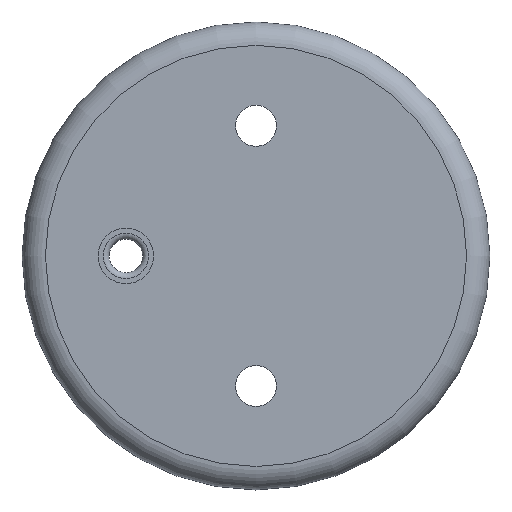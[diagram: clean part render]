
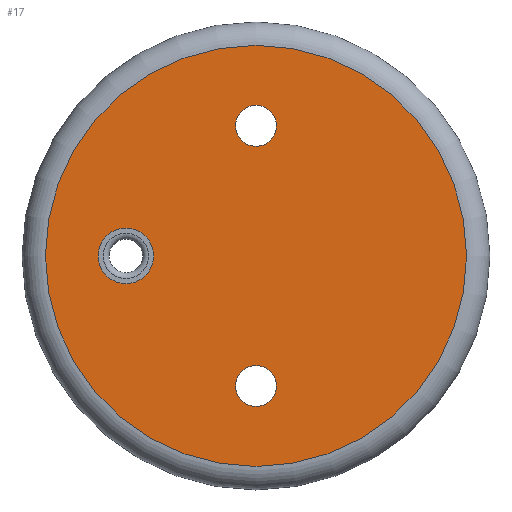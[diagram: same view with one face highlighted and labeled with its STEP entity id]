
A CAD part, top view. The second image highlights one B-rep face of the part: STEP entity #17.
In plain terms, the highlighted planar face has unit normal (0, 0, 1).
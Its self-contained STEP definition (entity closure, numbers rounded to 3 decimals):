
#17 = ADVANCED_FACE('',(#18,#54,#89,#124),#31,.T.);
#18 = FACE_BOUND('',#19,.F.);
#19 = EDGE_LOOP('',(#20));
#20 = ORIENTED_EDGE('',*,*,#21,.F.);
#21 = EDGE_CURVE('',#22,#22,#24,.T.);
#22 = VERTEX_POINT('',#23);
#23 = CARTESIAN_POINT('',(72.,0.,0.));
#24 = SURFACE_CURVE('',#25,(#30,#42),.PCURVE_S1.);
#25 = CIRCLE('',#26,72.);
#26 = AXIS2_PLACEMENT_3D('',#27,#28,#29);
#27 = CARTESIAN_POINT('',(0.,0.,0.));
#28 = DIRECTION('',(0.,0.,1.));
#29 = DIRECTION('',(1.,0.,-0.));
#30 = PCURVE('',#31,#36);
#31 = PLANE('',#32);
#32 = AXIS2_PLACEMENT_3D('',#33,#34,#35);
#33 = CARTESIAN_POINT('',(0.,0.,0.));
#34 = DIRECTION('',(0.,0.,1.));
#35 = DIRECTION('',(1.,0.,-0.));
#36 = DEFINITIONAL_REPRESENTATION('',(#37),#41);
#37 = CIRCLE('',#38,72.);
#38 = AXIS2_PLACEMENT_2D('',#39,#40);
#39 = CARTESIAN_POINT('',(0.,0.));
#40 = DIRECTION('',(1.,0.));
#41 = ( GEOMETRIC_REPRESENTATION_CONTEXT(2) 
PARAMETRIC_REPRESENTATION_CONTEXT() REPRESENTATION_CONTEXT('2D SPACE',''
  ) );
#42 = PCURVE('',#43,#48);
#43 = TOROIDAL_SURFACE('',#44,72.,8.);
#44 = AXIS2_PLACEMENT_3D('',#45,#46,#47);
#45 = CARTESIAN_POINT('',(0.,0.,-8.));
#46 = DIRECTION('',(-0.,-0.,-1.));
#47 = DIRECTION('',(1.,0.,-0.));
#48 = DEFINITIONAL_REPRESENTATION('',(#49),#53);
#49 = LINE('',#50,#51);
#50 = CARTESIAN_POINT('',(6.283,4.712));
#51 = VECTOR('',#52,1.);
#52 = DIRECTION('',(-1.,0.));
#53 = ( GEOMETRIC_REPRESENTATION_CONTEXT(2) 
PARAMETRIC_REPRESENTATION_CONTEXT() REPRESENTATION_CONTEXT('2D SPACE',''
  ) );
#54 = FACE_BOUND('',#55,.F.);
#55 = EDGE_LOOP('',(#56));
#56 = ORIENTED_EDGE('',*,*,#57,.F.);
#57 = EDGE_CURVE('',#58,#58,#60,.T.);
#58 = VERTEX_POINT('',#59);
#59 = CARTESIAN_POINT('',(7.,-44.5,0.));
#60 = SURFACE_CURVE('',#61,(#66,#77),.PCURVE_S1.);
#61 = CIRCLE('',#62,7.);
#62 = AXIS2_PLACEMENT_3D('',#63,#64,#65);
#63 = CARTESIAN_POINT('',(0.,-44.5,0.));
#64 = DIRECTION('',(0.,0.,-1.));
#65 = DIRECTION('',(1.,0.,0.));
#66 = PCURVE('',#31,#67);
#67 = DEFINITIONAL_REPRESENTATION('',(#68),#76);
#68 = ( BOUNDED_CURVE() B_SPLINE_CURVE(2,(#69,#70,#71,#72,#73,#74,#75),
.UNSPECIFIED.,.T.,.F.) B_SPLINE_CURVE_WITH_KNOTS((1,2,2,2,2,1),(
    -2.094,0.,2.094,4.189,6.283,
8.378),.UNSPECIFIED.) CURVE() GEOMETRIC_REPRESENTATION_ITEM() 
RATIONAL_B_SPLINE_CURVE((1.,0.5,1.,0.5,1.,0.5,1.)) REPRESENTATION_ITEM(
  '') );
#69 = CARTESIAN_POINT('',(7.,-44.5));
#70 = CARTESIAN_POINT('',(7.,-56.624));
#71 = CARTESIAN_POINT('',(-3.5,-50.562));
#72 = CARTESIAN_POINT('',(-14.,-44.5));
#73 = CARTESIAN_POINT('',(-3.5,-38.438));
#74 = CARTESIAN_POINT('',(7.,-32.376));
#75 = CARTESIAN_POINT('',(7.,-44.5));
#76 = ( GEOMETRIC_REPRESENTATION_CONTEXT(2) 
PARAMETRIC_REPRESENTATION_CONTEXT() REPRESENTATION_CONTEXT('2D SPACE',''
  ) );
#77 = PCURVE('',#78,#83);
#78 = CYLINDRICAL_SURFACE('',#79,7.);
#79 = AXIS2_PLACEMENT_3D('',#80,#81,#82);
#80 = CARTESIAN_POINT('',(0.,-44.5,-5.));
#81 = DIRECTION('',(-0.,-0.,-1.));
#82 = DIRECTION('',(1.,0.,0.));
#83 = DEFINITIONAL_REPRESENTATION('',(#84),#88);
#84 = LINE('',#85,#86);
#85 = CARTESIAN_POINT('',(0.,-5.));
#86 = VECTOR('',#87,1.);
#87 = DIRECTION('',(1.,-0.));
#88 = ( GEOMETRIC_REPRESENTATION_CONTEXT(2) 
PARAMETRIC_REPRESENTATION_CONTEXT() REPRESENTATION_CONTEXT('2D SPACE',''
  ) );
#89 = FACE_BOUND('',#90,.F.);
#90 = EDGE_LOOP('',(#91));
#91 = ORIENTED_EDGE('',*,*,#92,.F.);
#92 = EDGE_CURVE('',#93,#93,#95,.T.);
#93 = VERTEX_POINT('',#94);
#94 = CARTESIAN_POINT('',(-35.,0.,0.));
#95 = SURFACE_CURVE('',#96,(#101,#112),.PCURVE_S1.);
#96 = CIRCLE('',#97,9.5);
#97 = AXIS2_PLACEMENT_3D('',#98,#99,#100);
#98 = CARTESIAN_POINT('',(-44.5,0.,0.));
#99 = DIRECTION('',(0.,0.,-1.));
#100 = DIRECTION('',(1.,0.,0.));
#101 = PCURVE('',#31,#102);
#102 = DEFINITIONAL_REPRESENTATION('',(#103),#111);
#103 = ( BOUNDED_CURVE() B_SPLINE_CURVE(2,(#104,#105,#106,#107,#108,#109
,#110),.UNSPECIFIED.,.T.,.F.) B_SPLINE_CURVE_WITH_KNOTS((1,2,2,2,2,1),(
    -2.094,0.,2.094,4.189,6.283,
8.378),.UNSPECIFIED.) CURVE() GEOMETRIC_REPRESENTATION_ITEM() 
RATIONAL_B_SPLINE_CURVE((1.,0.5,1.,0.5,1.,0.5,1.)) REPRESENTATION_ITEM(
  '') );
#104 = CARTESIAN_POINT('',(-35.,0.));
#105 = CARTESIAN_POINT('',(-35.,-16.454));
#106 = CARTESIAN_POINT('',(-49.25,-8.227));
#107 = CARTESIAN_POINT('',(-63.5,0.));
#108 = CARTESIAN_POINT('',(-49.25,8.227));
#109 = CARTESIAN_POINT('',(-35.,16.454));
#110 = CARTESIAN_POINT('',(-35.,0.));
#111 = ( GEOMETRIC_REPRESENTATION_CONTEXT(2) 
PARAMETRIC_REPRESENTATION_CONTEXT() REPRESENTATION_CONTEXT('2D SPACE',''
  ) );
#112 = PCURVE('',#113,#118);
#113 = CYLINDRICAL_SURFACE('',#114,9.5);
#114 = AXIS2_PLACEMENT_3D('',#115,#116,#117);
#115 = CARTESIAN_POINT('',(-44.5,0.,-5.));
#116 = DIRECTION('',(-0.,-0.,-1.));
#117 = DIRECTION('',(1.,0.,0.));
#118 = DEFINITIONAL_REPRESENTATION('',(#119),#123);
#119 = LINE('',#120,#121);
#120 = CARTESIAN_POINT('',(0.,-5.));
#121 = VECTOR('',#122,1.);
#122 = DIRECTION('',(1.,-0.));
#123 = ( GEOMETRIC_REPRESENTATION_CONTEXT(2) 
PARAMETRIC_REPRESENTATION_CONTEXT() REPRESENTATION_CONTEXT('2D SPACE',''
  ) );
#124 = FACE_BOUND('',#125,.F.);
#125 = EDGE_LOOP('',(#126));
#126 = ORIENTED_EDGE('',*,*,#127,.F.);
#127 = EDGE_CURVE('',#128,#128,#130,.T.);
#128 = VERTEX_POINT('',#129);
#129 = CARTESIAN_POINT('',(7.,44.5,0.));
#130 = SURFACE_CURVE('',#131,(#136,#147),.PCURVE_S1.);
#131 = CIRCLE('',#132,7.);
#132 = AXIS2_PLACEMENT_3D('',#133,#134,#135);
#133 = CARTESIAN_POINT('',(0.,44.5,0.));
#134 = DIRECTION('',(0.,0.,-1.));
#135 = DIRECTION('',(1.,0.,0.));
#136 = PCURVE('',#31,#137);
#137 = DEFINITIONAL_REPRESENTATION('',(#138),#146);
#138 = ( BOUNDED_CURVE() B_SPLINE_CURVE(2,(#139,#140,#141,#142,#143,#144
,#145),.UNSPECIFIED.,.T.,.F.) B_SPLINE_CURVE_WITH_KNOTS((1,2,2,2,2,1),(
    -2.094,0.,2.094,4.189,6.283,
8.378),.UNSPECIFIED.) CURVE() GEOMETRIC_REPRESENTATION_ITEM() 
RATIONAL_B_SPLINE_CURVE((1.,0.5,1.,0.5,1.,0.5,1.)) REPRESENTATION_ITEM(
  '') );
#139 = CARTESIAN_POINT('',(7.,44.5));
#140 = CARTESIAN_POINT('',(7.,32.376));
#141 = CARTESIAN_POINT('',(-3.5,38.438));
#142 = CARTESIAN_POINT('',(-14.,44.5));
#143 = CARTESIAN_POINT('',(-3.5,50.562));
#144 = CARTESIAN_POINT('',(7.,56.624));
#145 = CARTESIAN_POINT('',(7.,44.5));
#146 = ( GEOMETRIC_REPRESENTATION_CONTEXT(2) 
PARAMETRIC_REPRESENTATION_CONTEXT() REPRESENTATION_CONTEXT('2D SPACE',''
  ) );
#147 = PCURVE('',#148,#153);
#148 = CYLINDRICAL_SURFACE('',#149,7.);
#149 = AXIS2_PLACEMENT_3D('',#150,#151,#152);
#150 = CARTESIAN_POINT('',(0.,44.5,-5.));
#151 = DIRECTION('',(-0.,-0.,-1.));
#152 = DIRECTION('',(1.,0.,0.));
#153 = DEFINITIONAL_REPRESENTATION('',(#154),#158);
#154 = LINE('',#155,#156);
#155 = CARTESIAN_POINT('',(0.,-5.));
#156 = VECTOR('',#157,1.);
#157 = DIRECTION('',(1.,-0.));
#158 = ( GEOMETRIC_REPRESENTATION_CONTEXT(2) 
PARAMETRIC_REPRESENTATION_CONTEXT() REPRESENTATION_CONTEXT('2D SPACE',''
  ) );
